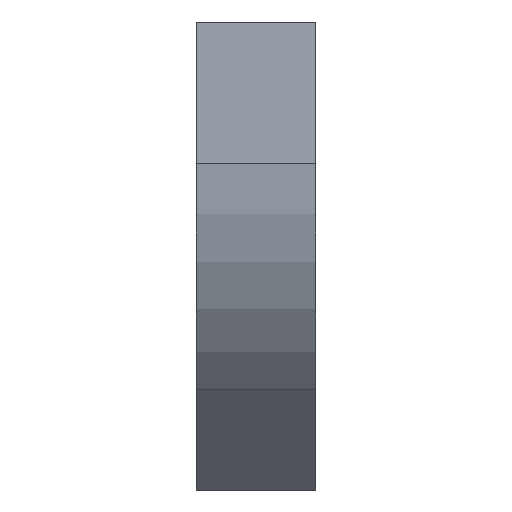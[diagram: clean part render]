
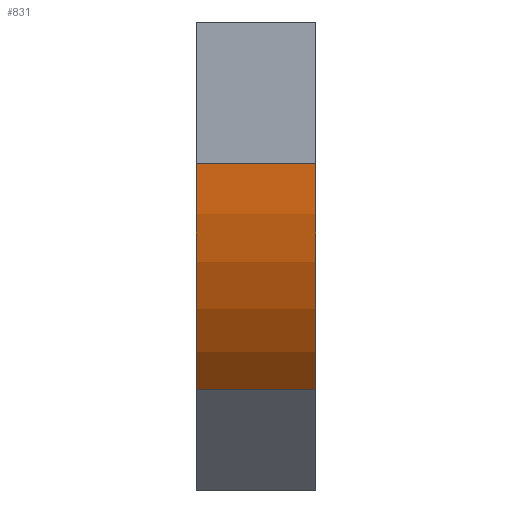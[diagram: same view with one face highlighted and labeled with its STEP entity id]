
A CAD part, left-side view. The second image highlights one B-rep face of the part: STEP entity #831.
In plain terms, the highlighted cylindrical face has radius 300 mm (diameter 600 mm), a partial arc.
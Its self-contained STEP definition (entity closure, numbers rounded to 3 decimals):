
#39 = AXIS2_PLACEMENT_3D ( 'NONE', #1670, #384, #1363 ) ;
#44 = CARTESIAN_POINT ( 'NONE',  ( 300., 112.5, -132.843 ) ) ;
#76 = CARTESIAN_POINT ( 'NONE',  ( 87.868, 0., -344.975 ) ) ;
#82 = DIRECTION ( 'NONE',  ( 0., -1., 0. ) ) ;
#108 = VECTOR ( 'NONE', #82, 1000. ) ;
#198 = EDGE_LOOP ( 'NONE', ( #667, #858, #915, #1527 ) ) ;
#234 = VERTEX_POINT ( 'NONE', #1174 ) ;
#239 = EDGE_CURVE ( 'NONE', #496, #836, #1848, .T. ) ;
#263 = DIRECTION ( 'NONE',  ( 0., 0., -1. ) ) ;
#384 = DIRECTION ( 'NONE',  ( 0., -1., 0. ) ) ;
#435 = CYLINDRICAL_SURFACE ( 'NONE', #791, 300. ) ;
#457 = EDGE_CURVE ( 'NONE', #752, #234, #1171, .T. ) ;
#496 = VERTEX_POINT ( 'NONE', #1371 ) ;
#640 = DIRECTION ( 'NONE',  ( 0., -1., 0. ) ) ;
#667 = ORIENTED_EDGE ( 'NONE', *, *, #457, .F. ) ;
#752 = VERTEX_POINT ( 'NONE', #1801 ) ;
#755 = DIRECTION ( 'NONE',  ( 0., -1., 0. ) ) ;
#777 = LINE ( 'NONE', #76, #934 ) ;
#791 = AXIS2_PLACEMENT_3D ( 'NONE', #1149, #1001, #263 ) ;
#799 = LINE ( 'NONE', #1762, #108 ) ;
#831 = ADVANCED_FACE ( 'NONE', ( #851 ), #435, .T. ) ;
#836 = VERTEX_POINT ( 'NONE', #1280 ) ;
#851 = FACE_OUTER_BOUND ( 'NONE', #198, .T. ) ;
#858 = ORIENTED_EDGE ( 'NONE', *, *, #1708, .F. ) ;
#915 = ORIENTED_EDGE ( 'NONE', *, *, #239, .T. ) ;
#934 = VECTOR ( 'NONE', #640, 1000. ) ;
#1001 = DIRECTION ( 'NONE',  ( 0., -1., 0. ) ) ;
#1149 = CARTESIAN_POINT ( 'NONE',  ( 300., 0., -132.843 ) ) ;
#1155 = DIRECTION ( 'NONE',  ( -1., 0., 0. ) ) ;
#1171 = CIRCLE ( 'NONE', #39, 300. ) ;
#1174 = CARTESIAN_POINT ( 'NONE',  ( 87.868, 0., -344.975 ) ) ;
#1220 = EDGE_CURVE ( 'NONE', #836, #234, #777, .T. ) ;
#1280 = CARTESIAN_POINT ( 'NONE',  ( 87.868, 112.5, -344.975 ) ) ;
#1363 = DIRECTION ( 'NONE',  ( -1., 0., 0. ) ) ;
#1371 = CARTESIAN_POINT ( 'NONE',  ( 0., 112.5, -132.843 ) ) ;
#1527 = ORIENTED_EDGE ( 'NONE', *, *, #1220, .T. ) ;
#1647 = AXIS2_PLACEMENT_3D ( 'NONE', #44, #755, #1155 ) ;
#1670 = CARTESIAN_POINT ( 'NONE',  ( 300., 0., -132.843 ) ) ;
#1708 = EDGE_CURVE ( 'NONE', #496, #752, #799, .T. ) ;
#1762 = CARTESIAN_POINT ( 'NONE',  ( 0., 0., -132.843 ) ) ;
#1801 = CARTESIAN_POINT ( 'NONE',  ( 0., 0., -132.843 ) ) ;
#1848 = CIRCLE ( 'NONE', #1647, 300. ) ;
